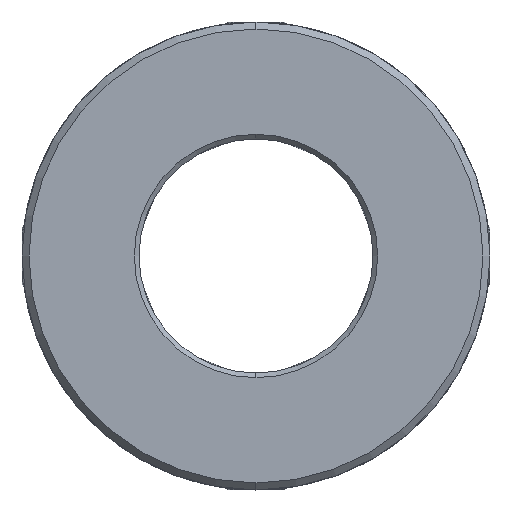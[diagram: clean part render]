
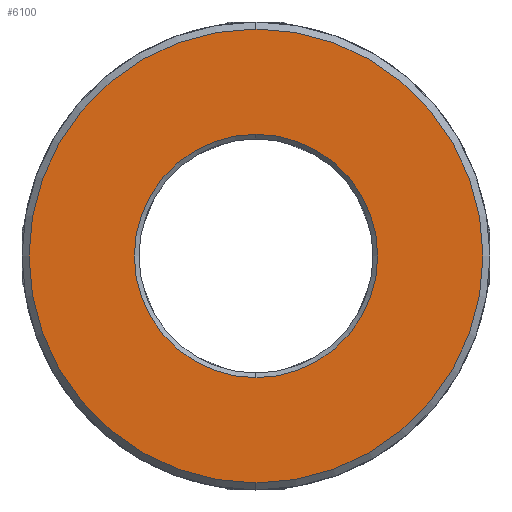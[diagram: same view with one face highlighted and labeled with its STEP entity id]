
A CAD part, front view. The second image highlights one B-rep face of the part: STEP entity #6100.
In plain terms, the highlighted planar face has unit normal (0, -1, 0).
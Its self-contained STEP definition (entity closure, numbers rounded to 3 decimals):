
#190 = VERTEX_POINT ( 'NONE', #4774 ) ;
#252 = VERTEX_POINT ( 'NONE', #4257 ) ;
#308 = EDGE_CURVE ( 'NONE', #190, #252, #5885, .T. ) ;
#394 = CARTESIAN_POINT ( 'NONE',  ( 0., 0., 0. ) ) ;
#508 = DIRECTION ( 'NONE',  ( 0., 0., 1. ) ) ;
#920 = DIRECTION ( 'NONE',  ( 0., -1., 0. ) ) ;
#1191 = AXIS2_PLACEMENT_3D ( 'NONE', #1635, #1719, #5859 ) ;
#1247 = FACE_OUTER_BOUND ( 'NONE', #4345, .T. ) ;
#1356 = PLANE ( 'NONE',  #2828 ) ;
#1635 = CARTESIAN_POINT ( 'NONE',  ( 0., 0., 0. ) ) ;
#1719 = DIRECTION ( 'NONE',  ( 0., 1., 0. ) ) ;
#1757 = CARTESIAN_POINT ( 'NONE',  ( 0., 0., 10.4 ) ) ;
#1824 = DIRECTION ( 'NONE',  ( 0., -1., 0. ) ) ;
#1878 = DIRECTION ( 'NONE',  ( 0., 0., 1. ) ) ;
#1927 = FACE_BOUND ( 'NONE', #4243, .T. ) ;
#1988 = DIRECTION ( 'NONE',  ( 0., 0., 1. ) ) ;
#2735 = VERTEX_POINT ( 'NONE', #1757 ) ;
#2770 = DIRECTION ( 'NONE',  ( 0., 0., 1. ) ) ;
#2828 = AXIS2_PLACEMENT_3D ( 'NONE', #3665, #4880, #1878 ) ;
#3282 = ORIENTED_EDGE ( 'NONE', *, *, #308, .T. ) ;
#3665 = CARTESIAN_POINT ( 'NONE',  ( 24.74, 0., -50. ) ) ;
#4243 = EDGE_LOOP ( 'NONE', ( #5914, #4893 ) ) ;
#4257 = CARTESIAN_POINT ( 'NONE',  ( 0., 0., -19.4 ) ) ;
#4345 = EDGE_LOOP ( 'NONE', ( #3282, #5373 ) ) ;
#4373 = CIRCLE ( 'NONE', #5239, 10.4 ) ;
#4774 = CARTESIAN_POINT ( 'NONE',  ( 0., 0., 19.4 ) ) ;
#4837 = CIRCLE ( 'NONE', #1191, 10.4 ) ;
#4880 = DIRECTION ( 'NONE',  ( 0., 1., 0. ) ) ;
#4893 = ORIENTED_EDGE ( 'NONE', *, *, #6403, .T. ) ;
#5239 = AXIS2_PLACEMENT_3D ( 'NONE', #7366, #5570, #1988 ) ;
#5373 = ORIENTED_EDGE ( 'NONE', *, *, #6300, .T. ) ;
#5570 = DIRECTION ( 'NONE',  ( 0., 1., 0. ) ) ;
#5859 = DIRECTION ( 'NONE',  ( 0., 0., 1. ) ) ;
#5885 = CIRCLE ( 'NONE', #7597, 19.4 ) ;
#5914 = ORIENTED_EDGE ( 'NONE', *, *, #6832, .T. ) ;
#6078 = AXIS2_PLACEMENT_3D ( 'NONE', #394, #920, #2770 ) ;
#6100 = ADVANCED_FACE ( 'NONE', ( #1927, #1247 ), #1356, .F. ) ;
#6300 = EDGE_CURVE ( 'NONE', #252, #190, #7429, .T. ) ;
#6403 = EDGE_CURVE ( 'NONE', #2735, #7739, #4837, .T. ) ;
#6788 = CARTESIAN_POINT ( 'NONE',  ( 0., 0., -10.4 ) ) ;
#6832 = EDGE_CURVE ( 'NONE', #7739, #2735, #4373, .T. ) ;
#7366 = CARTESIAN_POINT ( 'NONE',  ( 0., 0., 0. ) ) ;
#7429 = CIRCLE ( 'NONE', #6078, 19.4 ) ;
#7597 = AXIS2_PLACEMENT_3D ( 'NONE', #7814, #1824, #508 ) ;
#7739 = VERTEX_POINT ( 'NONE', #6788 ) ;
#7814 = CARTESIAN_POINT ( 'NONE',  ( 0., 0., 0. ) ) ;
